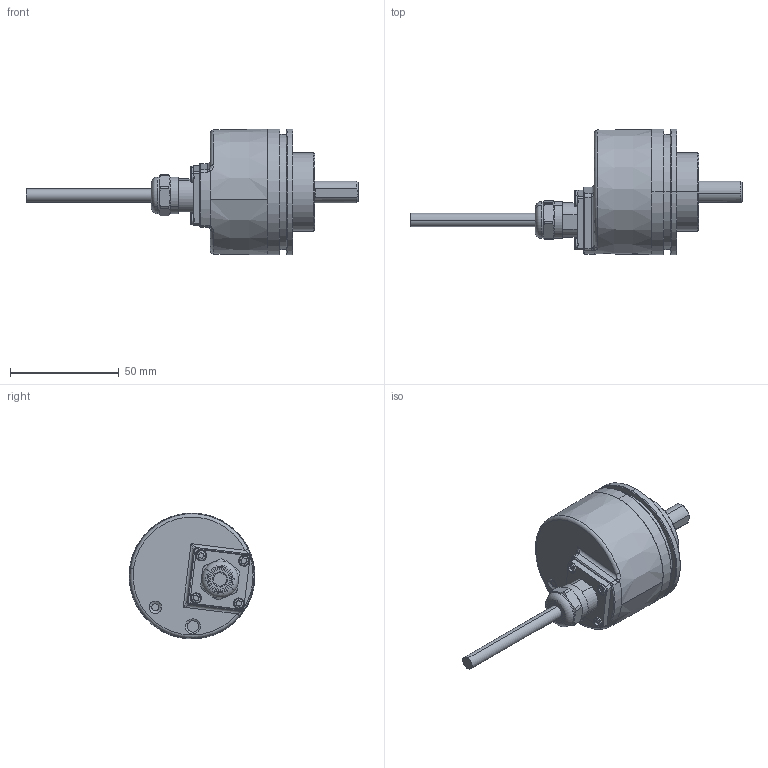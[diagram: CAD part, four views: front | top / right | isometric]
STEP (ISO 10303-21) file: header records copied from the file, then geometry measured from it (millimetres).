
FILE_DESCRIPTION (( 'STEP AP203' ), '1' );
FILE_NAME ('8.5814.12X1.XXXX.STEP', '2013-11-20T15:19:37', ( 'HeirlerN' ), ( 'Microsoft' ), 'SwSTEP 2.0', 'SolidWorks 2013', '' );
FILE_SCHEMA (( 'CONFIG_CONTROL_DESIGN' ));
Length unit declared in the file: millimetre
Products named in the file (1): 8.5814.12X1.XXXX
Bounding box: 153 x 58 x 58 mm (x, y, z)
Volume: 67473.4 mm3; surface area: 44740.7 mm2
Topology: 12 solids, 12 shells, 803 faces, 1954 edges, 1176 vertices
Faces by surface type: cylinder 246, plane 207, cone 189, torus 100, bspline 33, sphere 28
Entity records: 24934 total; most frequent: CARTESIAN_POINT 6347, DIRECTION 4122, ORIENTED_EDGE 3724, EDGE_CURVE 1862, AXIS2_PLACEMENT_3D 1729, VERTEX_POINT 1146, CIRCLE 958, EDGE_LOOP 906
